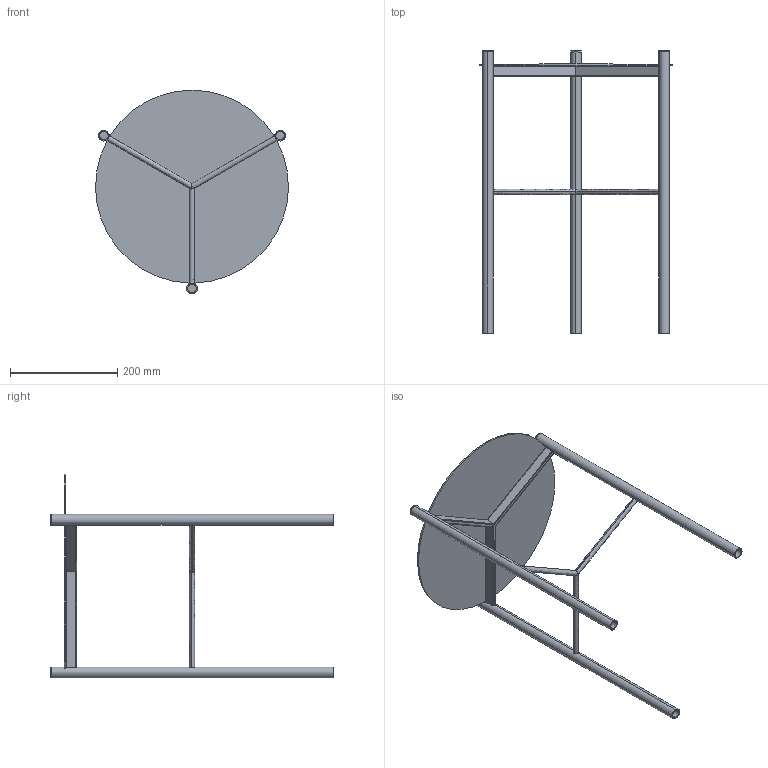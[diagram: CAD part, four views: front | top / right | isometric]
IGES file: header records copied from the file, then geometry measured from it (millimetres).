
Start section: SolidWorks IGES file using analytic representation for surfaces
Global section: file name: Y:\eforma\TECNICO\SOLIDWORKS\E-FORMA\2-TAVOLINI\JACK\02 parts\J601S.IGS; native system: SolidWorks 2022; preprocessor: SolidWorks 2022; author: eforma.tech; date: 240806.132755; units: millimetre
Bounding box: 359.95 x 527 x 380.07 mm (x, y, z)
Volume: 527799.1 mm3; surface area: 473377.5 mm2
Topology: 13 solids, 13 shells, 121 faces, 287 edges, 190 vertices
Faces by surface type: revolution 71, plane 50
